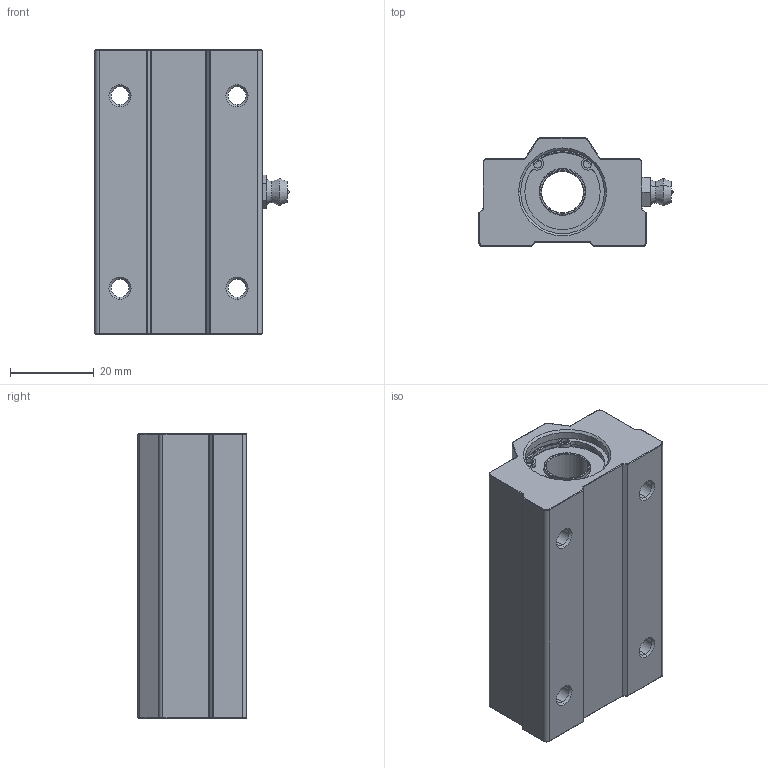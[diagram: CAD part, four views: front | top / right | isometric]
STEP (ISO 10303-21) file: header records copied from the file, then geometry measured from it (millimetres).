
FILE_DESCRIPTION (( 'STEP AP214' ), '1' );
FILE_NAME ('SC10LUU.STEP', '2020-09-21T12:45:04', ( '' ), ( '' ), 'SwSTEP 2.0', 'SolidWorks 2018', '' );
FILE_SCHEMA (( 'AUTOMOTIVE_DESIGN' ));
Length unit declared in the file: millimetre
Products named in the file (5): SC10LUU-04_5å4,5; SC10LUU-03; SC10LUU-02; SC10LUU-01; SC10LUU
Assembly tree (5 placements, depth 2):
  SC10LUU
    SC10LUU-01
    SC10LUU-02
    SC10LUU-03  x2
    SC10LUU-04_5å4,5
Bounding box: 46.45 x 26.1 x 68 mm (x, y, z)
Volume: 51181 mm3; surface area: 22354 mm2
Topology: 6 solids, 6 shells, 405 faces, 984 edges, 610 vertices
Faces by surface type: plane 161, cylinder 114, torus 48, bspline 38, cone 34, sphere 10
Entity records: 15190 total; most frequent: CARTESIAN_POINT 4234, DIRECTION 1874, ORIENTED_EDGE 1856, EDGE_CURVE 928, AXIS2_PLACEMENT_3D 664, VERTEX_POINT 577, VECTOR 546, LINE 546
